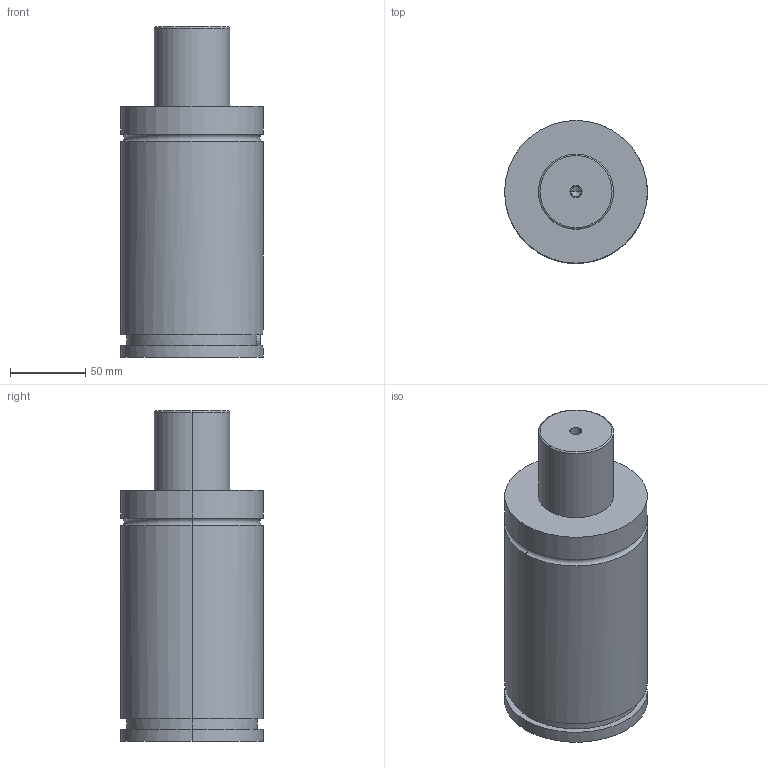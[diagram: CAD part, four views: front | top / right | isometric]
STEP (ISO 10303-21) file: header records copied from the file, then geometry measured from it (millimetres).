
FILE_DESCRIPTION(/* description */ (''),/* implementation_level */ '2;1');
FILE_NAME(/* name */ '3d_gse95-50_03861_r00.stp',/* time_stamp */ '2011-01-10T14:15:18+09:00',/* author */ ('MISUMI'),/* organization */ (''),/* preprocessor_version */ 'ST-DEVELOPER v11',/* originating_system */ 'UGS - NX 5.0',/* authorisation */ '');
FILE_SCHEMA (('CONFIG_CONTROL_DESIGN'));
Length unit declared in the file: millimetre
Products named in the file (1): 3d_gse95-50_03861_r00
Bounding box: 95 x 95 x 220 mm (x, y, z)
Volume: 1272205.3 mm3; surface area: 77634 mm2
Topology: 1 solids, 1 shells, 75 faces, 161 edges, 103 vertices
Faces by surface type: cylinder 34, plane 27, cone 10, torus 4
Entity records: 2145 total; most frequent: DIRECTION 393, CARTESIAN_POINT 360, ORIENTED_EDGE 318, AXIS2_PLACEMENT_3D 164, EDGE_CURVE 159, VERTEX_POINT 103, EDGE_LOOP 92, CIRCLE 88
